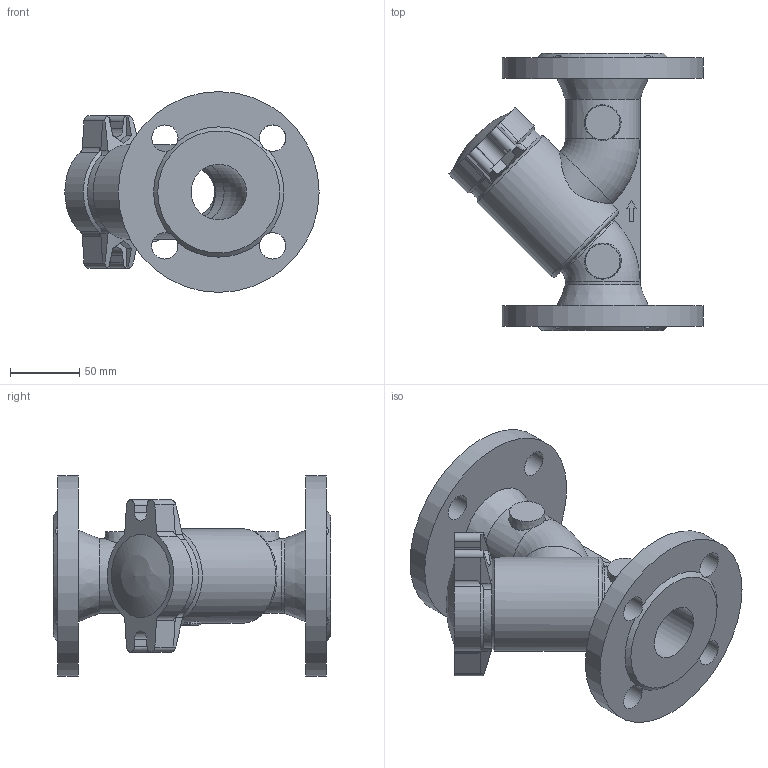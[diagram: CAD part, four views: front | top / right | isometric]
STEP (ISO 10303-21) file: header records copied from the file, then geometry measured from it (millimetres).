
FILE_DESCRIPTION(('STEP AP203'), '1');
FILE_NAME('Ôèëüòð ñåò÷àòûé ôëàíöåâûé 021Y.M DN40 PN10_PN16', '', ('UNSPECIFIED'), ('UNSPECIFIED'), 'ASCON STEP Converter 1.6', 'ASCON Math Kernel', '');
FILE_SCHEMA(('CONFIG_CONTROL_DESIGN'));
Length unit declared in the file: millimetre
Bounding box: 183.61 x 200 x 145 mm (x, y, z)
Volume: 818153 mm3; surface area: 168355.4 mm2
Topology: 1 solids, 1 shells, 134 faces, 360 edges, 234 vertices
Faces by surface type: plane 68, cylinder 49, cone 11, torus 5, sphere 1
Full cylindrical faces by diameter (mm): 19 x8, 40 x4, 48 x2, 54 x1, 68 x1, 145 x2
Entity records: 8300 total; most frequent: CARTESIAN_POINT 3946, ORIENTED_EDGE 662, DIRECTION 647, EDGE_CURVE 331, AXIS2_PLACEMENT_3D 249, VERTEX_POINT 233, EDGE_LOOP 186, LINE 149
